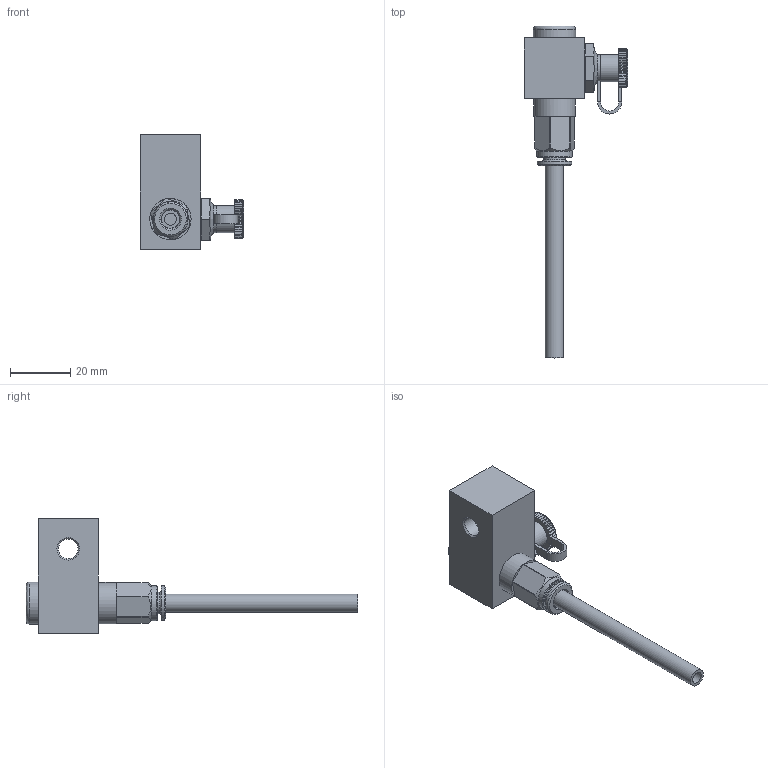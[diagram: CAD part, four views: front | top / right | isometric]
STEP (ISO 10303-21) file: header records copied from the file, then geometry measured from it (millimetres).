
FILE_DESCRIPTION (( 'STEP AP214' ), '1' );
FILE_NAME ('1460_0001_HD.STEP', '2026-01-26T13:56:50', ( '' ), ( '' ), 'SwSTEP 2.0', 'SolidWorks 2022', '' );
FILE_SCHEMA (( 'AUTOMOTIVE_DESIGN' ));
Length unit declared in the file: millimetre
Products named in the file (13): H200139_HDS01_6_M10X1_08.05.17; 1460_01_01b_ASL-01; 1460_0001_HD; 749-M10X1-A; Lasche_Staubkappe; 1460_steckverscgraubung_Rohr 6x1; POLY_6_4_Bogen_2; OR 7.66X1.78_1; Staubkappe_Fettnippel; Staubkappe; schmiernippel_M10_1; RIVOLUZIONE_0_2; DR6-C_HDX_25.07.16_1
Assembly tree (12 placements, depth 4):
  1460_0001_HD
    1460_01_01b_ASL-01
    749-M10X1-A
    schmiernippel_M10_1
    Staubkappe_Fettnippel
      Lasche_Staubkappe
      Staubkappe
    1460_steckverscgraubung_Rohr 6x1
      POLY_6_4_Bogen_2
      H200139_HDS01_6_M10X1_08.05.17
        OR 7.66X1.78_1
        DR6-C_HDX_25.07.16_1
        RIVOLUZIONE_0_2
Bounding box: 34.3 x 110.1 x 38 mm (x, y, z)
Volume: 17769.7 mm3; surface area: 13324.4 mm2
Topology: 8 solids, 10 shells, 288 faces, 759 edges, 502 vertices
Faces by surface type: plane 179, bspline 43, cylinder 41, cone 25
Full cylindrical faces by diameter (mm): 1.5 x1, 4 x1, 4.2 x1, 5 x1, 6 x2, 6.2 x1, 6.3 x1, 6.495 x1, 6.5 x1, 7.2 x1, 8.4 x1, 8.5 x1, 9 x1, 9.9 x1, 10 x4, 10.3 x1, 11.5 x1, 11.7 x1, 11.9 x1, 13.7 x1, 14 x1
Entity records: 21688 total; most frequent: CARTESIAN_POINT 14257, ORIENTED_EDGE 1331, DIRECTION 1085, EDGE_CURVE 667, VERTEX_POINT 470, AXIS2_PLACEMENT_3D 390, EDGE_LOOP 375, FACE_OUTER_BOUND 322
